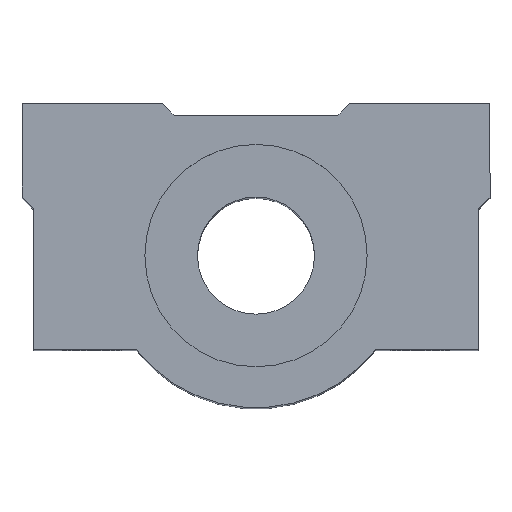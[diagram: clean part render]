
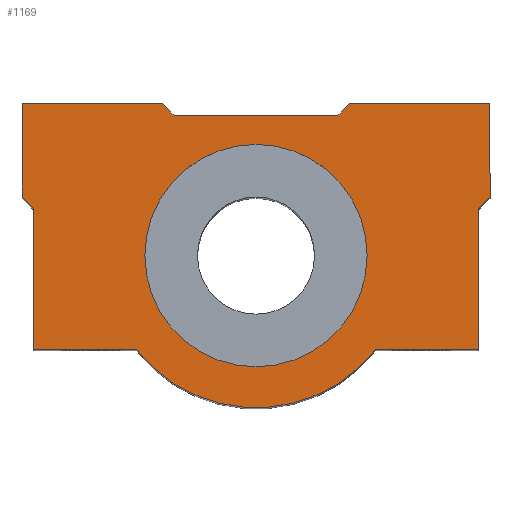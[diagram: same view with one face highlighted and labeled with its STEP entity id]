
A CAD part, top view. The second image highlights one B-rep face of the part: STEP entity #1169.
In plain terms, the highlighted planar face has unit normal (0, 0, 1).
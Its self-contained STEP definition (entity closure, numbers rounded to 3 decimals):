
#91=CARTESIAN_POINT('',(-10.209,4.198,66.0));
#92=VERTEX_POINT('',#91);
#101=CARTESIAN_POINT('',(8.791,4.198,66.0));
#102=VERTEX_POINT('',#101);
#103=CARTESIAN_POINT('',(-0.709,4.198,66.0));
#104=DIRECTION('',(0.0,0.0,-1.0));
#105=DIRECTION('',(-1.0,0.0,0.0));
#106=AXIS2_PLACEMENT_3D('',#103,#104,#105);
#107=CIRCLE('',#106,9.5);
#108=EDGE_CURVE('',#102,#92,#107,.T.);
#640=CARTESIAN_POINT('',(-0.709,4.198,66.0));
#641=DIRECTION('',(0.0,0.0,-1.0));
#642=DIRECTION('',(-1.0,0.0,0.0));
#643=AXIS2_PLACEMENT_3D('',#640,#641,#642);
#644=CIRCLE('',#643,9.5);
#645=EDGE_CURVE('',#92,#102,#644,.T.);
#780=CARTESIAN_POINT('',(19.291,9.198,66.0));
#781=VERTEX_POINT('',#780);
#782=CARTESIAN_POINT('',(18.291,8.198,66.0));
#783=VERTEX_POINT('',#782);
#784=CARTESIAN_POINT('',(19.291,9.198,66.0));
#785=DIRECTION('',(-0.707,-0.707,0.0));
#786=VECTOR('',#785,1.414);
#787=LINE('',#784,#786);
#788=EDGE_CURVE('',#781,#783,#787,.T.);
#811=CARTESIAN_POINT('',(18.291,-3.802,66.0));
#812=VERTEX_POINT('',#811);
#813=CARTESIAN_POINT('',(18.291,8.198,66.0));
#814=DIRECTION('',(0.0,-1.0,0.0));
#815=VECTOR('',#814,12.0);
#816=LINE('',#813,#815);
#817=EDGE_CURVE('',#783,#812,#816,.T.);
#835=CARTESIAN_POINT('',(9.538,-3.802,66.0));
#836=VERTEX_POINT('',#835);
#837=CARTESIAN_POINT('',(18.291,-3.802,66.0));
#838=DIRECTION('',(-1.0,0.0,0.0));
#839=VECTOR('',#838,8.753);
#840=LINE('',#837,#839);
#841=EDGE_CURVE('',#812,#836,#840,.T.);
#867=CARTESIAN_POINT('',(-10.956,-3.802,66.0));
#868=VERTEX_POINT('',#867);
#869=CARTESIAN_POINT('',(-0.709,4.198,66.0));
#870=DIRECTION('',(0.0,0.0,-1.));
#871=DIRECTION('',(0.788,0.615,0.0));
#872=AXIS2_PLACEMENT_3D('',#869,#870,#871);
#873=CIRCLE('',#872,13.);
#874=EDGE_CURVE('',#836,#868,#873,.T.);
#892=CARTESIAN_POINT('',(-19.709,-3.802,66.0));
#893=VERTEX_POINT('',#892);
#894=CARTESIAN_POINT('',(-10.956,-3.802,66.0));
#895=DIRECTION('',(-1.0,0.0,0.0));
#896=VECTOR('',#895,8.753);
#897=LINE('',#894,#896);
#898=EDGE_CURVE('',#868,#893,#897,.T.);
#924=CARTESIAN_POINT('',(-19.709,8.198,66.0));
#925=VERTEX_POINT('',#924);
#926=CARTESIAN_POINT('',(-19.709,-3.802,66.0));
#927=DIRECTION('',(0.0,1.0,0.0));
#928=VECTOR('',#927,12.);
#929=LINE('',#926,#928);
#930=EDGE_CURVE('',#893,#925,#929,.T.);
#948=CARTESIAN_POINT('',(-20.709,9.198,66.0));
#949=VERTEX_POINT('',#948);
#950=CARTESIAN_POINT('',(-19.709,8.198,66.0));
#951=DIRECTION('',(-0.707,0.707,0.0));
#952=VECTOR('',#951,1.414);
#953=LINE('',#950,#952);
#954=EDGE_CURVE('',#925,#949,#953,.T.);
#972=CARTESIAN_POINT('',(-20.709,17.198,66.0));
#973=VERTEX_POINT('',#972);
#974=CARTESIAN_POINT('',(-20.709,9.198,66.0));
#975=DIRECTION('',(0.0,1.0,0.0));
#976=VECTOR('',#975,8.);
#977=LINE('',#974,#976);
#978=EDGE_CURVE('',#949,#973,#977,.T.);
#996=CARTESIAN_POINT('',(-8.709,17.198,66.0));
#997=VERTEX_POINT('',#996);
#998=CARTESIAN_POINT('',(-20.709,17.198,66.0));
#999=DIRECTION('',(1.0,0.0,0.0));
#1000=VECTOR('',#999,12.);
#1001=LINE('',#998,#1000);
#1002=EDGE_CURVE('',#973,#997,#1001,.T.);
#1028=CARTESIAN_POINT('',(-7.709,16.198,66.0));
#1029=VERTEX_POINT('',#1028);
#1030=CARTESIAN_POINT('',(-8.709,17.198,66.0));
#1031=DIRECTION('',(0.707,-0.707,0.0));
#1032=VECTOR('',#1031,1.414);
#1033=LINE('',#1030,#1032);
#1034=EDGE_CURVE('',#997,#1029,#1033,.T.);
#1052=CARTESIAN_POINT('',(6.291,16.198,66.0));
#1053=VERTEX_POINT('',#1052);
#1054=CARTESIAN_POINT('',(-7.709,16.198,66.0));
#1055=DIRECTION('',(1.0,0.0,0.0));
#1056=VECTOR('',#1055,14.);
#1057=LINE('',#1054,#1056);
#1058=EDGE_CURVE('',#1029,#1053,#1057,.T.);
#1076=CARTESIAN_POINT('',(7.291,17.198,66.0));
#1077=VERTEX_POINT('',#1076);
#1078=CARTESIAN_POINT('',(6.291,16.198,66.0));
#1079=DIRECTION('',(0.707,0.707,0.0));
#1080=VECTOR('',#1079,1.414);
#1081=LINE('',#1078,#1080);
#1082=EDGE_CURVE('',#1053,#1077,#1081,.T.);
#1100=CARTESIAN_POINT('',(19.291,17.198,66.0));
#1101=VERTEX_POINT('',#1100);
#1102=CARTESIAN_POINT('',(7.291,17.198,66.0));
#1103=DIRECTION('',(1.0,0.0,0.0));
#1104=VECTOR('',#1103,12.);
#1105=LINE('',#1102,#1104);
#1106=EDGE_CURVE('',#1077,#1101,#1105,.T.);
#1132=CARTESIAN_POINT('',(19.291,17.198,66.0));
#1133=DIRECTION('',(0.0,-1.0,0.0));
#1134=VECTOR('',#1133,8.);
#1135=LINE('',#1132,#1134);
#1136=EDGE_CURVE('',#1101,#781,#1135,.T.);
#1144=CARTESIAN_POINT('',(-0.709,6.004,66.0));
#1145=DIRECTION('',(0.0,0.0,1.0));
#1146=DIRECTION('',(1.0,0.0,0.0));
#1147=AXIS2_PLACEMENT_3D('',#1144,#1145,#1146);
#1148=PLANE('',#1147);
#1149=ORIENTED_EDGE('',*,*,#788,.F.);
#1150=ORIENTED_EDGE('',*,*,#1136,.F.);
#1151=ORIENTED_EDGE('',*,*,#1106,.F.);
#1152=ORIENTED_EDGE('',*,*,#1082,.F.);
#1153=ORIENTED_EDGE('',*,*,#1058,.F.);
#1154=ORIENTED_EDGE('',*,*,#1034,.F.);
#1155=ORIENTED_EDGE('',*,*,#1002,.F.);
#1156=ORIENTED_EDGE('',*,*,#978,.F.);
#1157=ORIENTED_EDGE('',*,*,#954,.F.);
#1158=ORIENTED_EDGE('',*,*,#930,.F.);
#1159=ORIENTED_EDGE('',*,*,#898,.F.);
#1160=ORIENTED_EDGE('',*,*,#874,.F.);
#1161=ORIENTED_EDGE('',*,*,#841,.F.);
#1162=ORIENTED_EDGE('',*,*,#817,.F.);
#1163=EDGE_LOOP('',(#1149,#1150,#1151,#1152,#1153,#1154,#1155,#1156,#1157,#1158,#1159,#1160,#1161,#1162));
#1164=FACE_OUTER_BOUND('',#1163,.T.);
#1165=ORIENTED_EDGE('',*,*,#108,.T.);
#1166=ORIENTED_EDGE('',*,*,#645,.T.);
#1167=EDGE_LOOP('',(#1165,#1166));
#1168=FACE_BOUND('',#1167,.T.);
#1169=ADVANCED_FACE('',(#1164,#1168),#1148,.T.);
